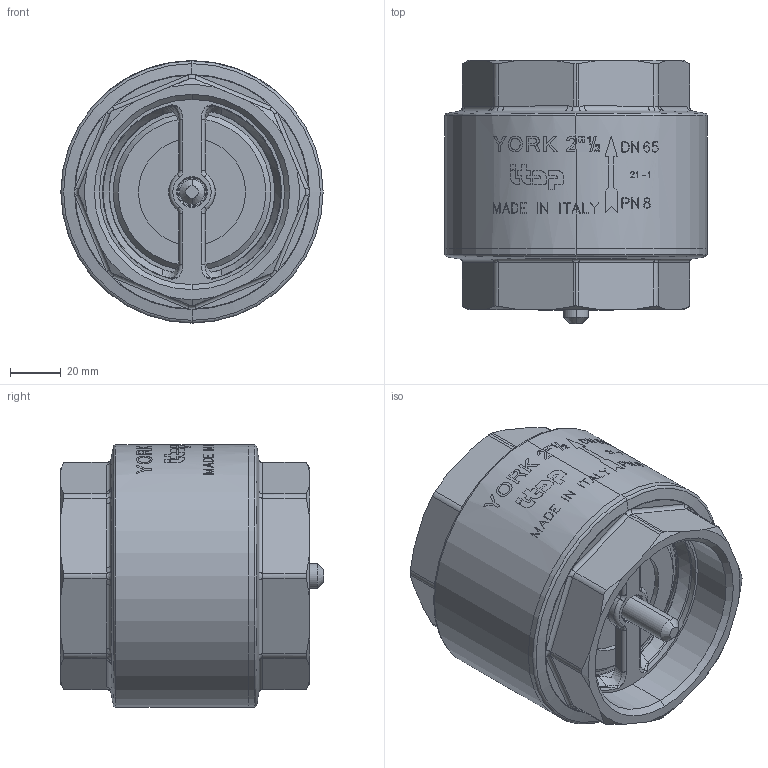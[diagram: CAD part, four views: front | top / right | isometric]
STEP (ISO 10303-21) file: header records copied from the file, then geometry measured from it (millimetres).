
FILE_DESCRIPTION (( 'STEP AP203' ), '1' );
FILE_NAME ('1030212.step', '2020-09-01T13:26:05', ( '' ), ( '' ), 'SwSTEP 2.0', 'SolidWorks 2018', '' );
FILE_SCHEMA (( 'CONFIG_CONTROL_DESIGN' ));
Length unit declared in the file: millimetre
Products named in the file (1): 1030212
Bounding box: 103 x 103.5 x 103 mm (x, y, z)
Surface area: 76862.9 mm2 (no closed solid volume)
Topology: 0 solids, 8 shells, 321 faces, 1408 edges, 1112 vertices
Faces by surface type: cylinder 116, bspline 82, plane 51, cone 46, torus 26
Entity records: 24367 total; most frequent: CARTESIAN_POINT 13934, ORIENTED_EDGE 2636, DIRECTION 1562, EDGE_CURVE 1404, VERTEX_POINT 1112, B_SPLINE_CURVE_WITH_KNOTS 733, AXIS2_PLACEMENT_3D 651, CIRCLE 411
